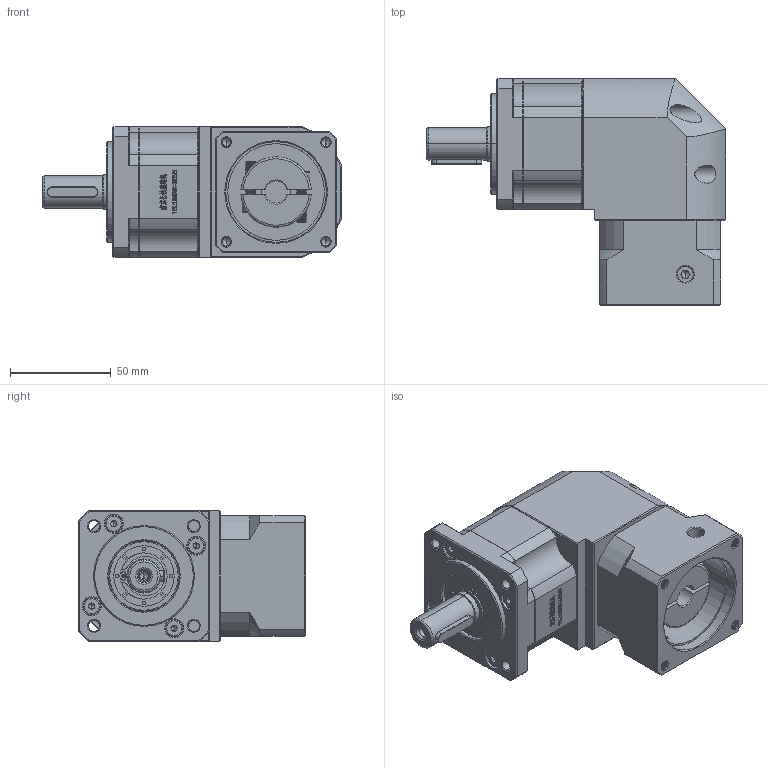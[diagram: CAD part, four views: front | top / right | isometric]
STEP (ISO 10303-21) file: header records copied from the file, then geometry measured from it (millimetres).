
FILE_DESCRIPTION (( 'STEP AP214' ), '1' );
FILE_NAME ('ZBR60-D16-L1-11-50-70-M5.STEP', '2022-04-19T08:28:16', ( '' ), ( 'Microsoft' ), 'SwSTEP 2.0', 'SolidWorks 2016', '' );
FILE_SCHEMA (( 'AUTOMOTIVE_DESIGN' ));
Length unit declared in the file: millimetre
Products named in the file (1): ZBR60-D16-L1-11-50-70-M5
Bounding box: 148.5 x 112.7 x 65 mm (x, y, z)
Volume: 527355 mm3; surface area: 78022.1 mm2
Topology: 5 solids, 5 shells, 2843 faces, 7713 edges, 5006 vertices
Faces by surface type: plane 1472, bspline 579, cylinder 432, cone 328, torus 32
Entity records: 155163 total; most frequent: CARTESIAN_POINT 56541, ORIENTED_EDGE 15366, DIRECTION 11723, EDGE_CURVE 7683, VECTOR 5059, LINE 5059, VERTEX_POINT 5006, AXIS2_PLACEMENT_3D 3332
